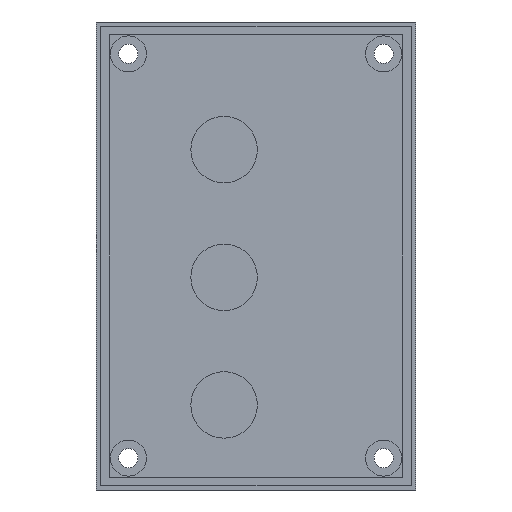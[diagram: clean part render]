
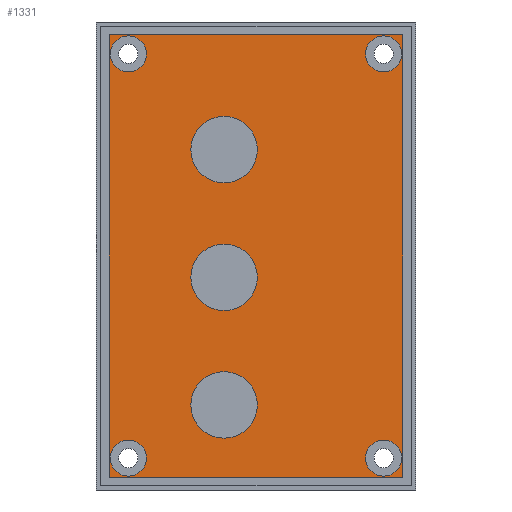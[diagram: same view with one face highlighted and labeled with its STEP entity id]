
A CAD part, left-side view. The second image highlights one B-rep face of the part: STEP entity #1331.
In plain terms, the highlighted planar face has unit normal (-1, 0, 0).
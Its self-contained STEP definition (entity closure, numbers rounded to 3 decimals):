
#1156 = VERTEX_POINT('',#1157);
#1157 = CARTESIAN_POINT('',(159.8,57.6,2.4));
#1163 = EDGE_CURVE('',#1156,#1164,#1166,.T.);
#1164 = VERTEX_POINT('',#1165);
#1165 = CARTESIAN_POINT('',(159.8,2.4,2.4));
#1166 = LINE('',#1167,#1168);
#1167 = CARTESIAN_POINT('',(159.8,1.2,2.4));
#1168 = VECTOR('',#1169,1.);
#1169 = DIRECTION('',(0.,-1.,0.));
#1187 = EDGE_CURVE('',#1156,#1188,#1190,.T.);
#1188 = VERTEX_POINT('',#1189);
#1189 = CARTESIAN_POINT('',(159.8,57.6,85.6));
#1190 = LINE('',#1191,#1192);
#1191 = CARTESIAN_POINT('',(159.8,57.6,1.2));
#1192 = VECTOR('',#1193,1.);
#1193 = DIRECTION('',(0.,0.,1.));
#1211 = EDGE_CURVE('',#1188,#1212,#1214,.T.);
#1212 = VERTEX_POINT('',#1213);
#1213 = CARTESIAN_POINT('',(159.8,2.4,85.6));
#1214 = LINE('',#1215,#1216);
#1215 = CARTESIAN_POINT('',(159.8,1.2,85.6));
#1216 = VECTOR('',#1217,1.);
#1217 = DIRECTION('',(0.,-1.,0.));
#1235 = EDGE_CURVE('',#1164,#1212,#1236,.T.);
#1236 = LINE('',#1237,#1238);
#1237 = CARTESIAN_POINT('',(159.8,2.4,1.2));
#1238 = VECTOR('',#1239,1.);
#1239 = DIRECTION('',(0.,0.,1.));
#1331 = ADVANCED_FACE('',(#1332,#1338,#1349,#1360,#1371,#1382,#1393,
    #1404),#1415,.F.);
#1332 = FACE_BOUND('',#1333,.F.);
#1333 = EDGE_LOOP('',(#1334,#1335,#1336,#1337));
#1334 = ORIENTED_EDGE('',*,*,#1163,.F.);
#1335 = ORIENTED_EDGE('',*,*,#1187,.T.);
#1336 = ORIENTED_EDGE('',*,*,#1211,.T.);
#1337 = ORIENTED_EDGE('',*,*,#1235,.F.);
#1338 = FACE_BOUND('',#1339,.F.);
#1339 = EDGE_LOOP('',(#1340));
#1340 = ORIENTED_EDGE('',*,*,#1341,.F.);
#1341 = EDGE_CURVE('',#1342,#1342,#1344,.T.);
#1342 = VERTEX_POINT('',#1343);
#1343 = CARTESIAN_POINT('',(159.8,54.,9.4));
#1344 = CIRCLE('',#1345,3.4);
#1345 = AXIS2_PLACEMENT_3D('',#1346,#1347,#1348);
#1346 = CARTESIAN_POINT('',(159.8,54.,6.));
#1347 = DIRECTION('',(1.,0.,0.));
#1348 = DIRECTION('',(-0.,0.,1.));
#1349 = FACE_BOUND('',#1350,.F.);
#1350 = EDGE_LOOP('',(#1351));
#1351 = ORIENTED_EDGE('',*,*,#1352,.F.);
#1352 = EDGE_CURVE('',#1353,#1353,#1355,.T.);
#1353 = VERTEX_POINT('',#1354);
#1354 = CARTESIAN_POINT('',(159.8,36.,22.25));
#1355 = CIRCLE('',#1356,6.25);
#1356 = AXIS2_PLACEMENT_3D('',#1357,#1358,#1359);
#1357 = CARTESIAN_POINT('',(159.8,36.,16.));
#1358 = DIRECTION('',(1.,0.,0.));
#1359 = DIRECTION('',(-0.,0.,1.));
#1360 = FACE_BOUND('',#1361,.F.);
#1361 = EDGE_LOOP('',(#1362));
#1362 = ORIENTED_EDGE('',*,*,#1363,.F.);
#1363 = EDGE_CURVE('',#1364,#1364,#1366,.T.);
#1364 = VERTEX_POINT('',#1365);
#1365 = CARTESIAN_POINT('',(159.8,36.,46.25));
#1366 = CIRCLE('',#1367,6.25);
#1367 = AXIS2_PLACEMENT_3D('',#1368,#1369,#1370);
#1368 = CARTESIAN_POINT('',(159.8,36.,40.));
#1369 = DIRECTION('',(1.,0.,0.));
#1370 = DIRECTION('',(-0.,0.,1.));
#1371 = FACE_BOUND('',#1372,.F.);
#1372 = EDGE_LOOP('',(#1373));
#1373 = ORIENTED_EDGE('',*,*,#1374,.F.);
#1374 = EDGE_CURVE('',#1375,#1375,#1377,.T.);
#1375 = VERTEX_POINT('',#1376);
#1376 = CARTESIAN_POINT('',(159.8,54.,85.4));
#1377 = CIRCLE('',#1378,3.4);
#1378 = AXIS2_PLACEMENT_3D('',#1379,#1380,#1381);
#1379 = CARTESIAN_POINT('',(159.8,54.,82.));
#1380 = DIRECTION('',(1.,0.,0.));
#1381 = DIRECTION('',(-0.,0.,1.));
#1382 = FACE_BOUND('',#1383,.F.);
#1383 = EDGE_LOOP('',(#1384));
#1384 = ORIENTED_EDGE('',*,*,#1385,.F.);
#1385 = EDGE_CURVE('',#1386,#1386,#1388,.T.);
#1386 = VERTEX_POINT('',#1387);
#1387 = CARTESIAN_POINT('',(159.8,36.,70.25));
#1388 = CIRCLE('',#1389,6.25);
#1389 = AXIS2_PLACEMENT_3D('',#1390,#1391,#1392);
#1390 = CARTESIAN_POINT('',(159.8,36.,64.));
#1391 = DIRECTION('',(1.,0.,0.));
#1392 = DIRECTION('',(-0.,0.,1.));
#1393 = FACE_BOUND('',#1394,.F.);
#1394 = EDGE_LOOP('',(#1395));
#1395 = ORIENTED_EDGE('',*,*,#1396,.F.);
#1396 = EDGE_CURVE('',#1397,#1397,#1399,.T.);
#1397 = VERTEX_POINT('',#1398);
#1398 = CARTESIAN_POINT('',(159.8,6.,9.4));
#1399 = CIRCLE('',#1400,3.4);
#1400 = AXIS2_PLACEMENT_3D('',#1401,#1402,#1403);
#1401 = CARTESIAN_POINT('',(159.8,6.,6.));
#1402 = DIRECTION('',(1.,0.,0.));
#1403 = DIRECTION('',(-0.,0.,1.));
#1404 = FACE_BOUND('',#1405,.F.);
#1405 = EDGE_LOOP('',(#1406));
#1406 = ORIENTED_EDGE('',*,*,#1407,.F.);
#1407 = EDGE_CURVE('',#1408,#1408,#1410,.T.);
#1408 = VERTEX_POINT('',#1409);
#1409 = CARTESIAN_POINT('',(159.8,6.,85.4));
#1410 = CIRCLE('',#1411,3.4);
#1411 = AXIS2_PLACEMENT_3D('',#1412,#1413,#1414);
#1412 = CARTESIAN_POINT('',(159.8,6.,82.));
#1413 = DIRECTION('',(1.,0.,0.));
#1414 = DIRECTION('',(-0.,0.,1.));
#1415 = PLANE('',#1416);
#1416 = AXIS2_PLACEMENT_3D('',#1417,#1418,#1419);
#1417 = CARTESIAN_POINT('',(159.8,0.,0.));
#1418 = DIRECTION('',(1.,0.,-0.));
#1419 = DIRECTION('',(0.,0.,1.));
